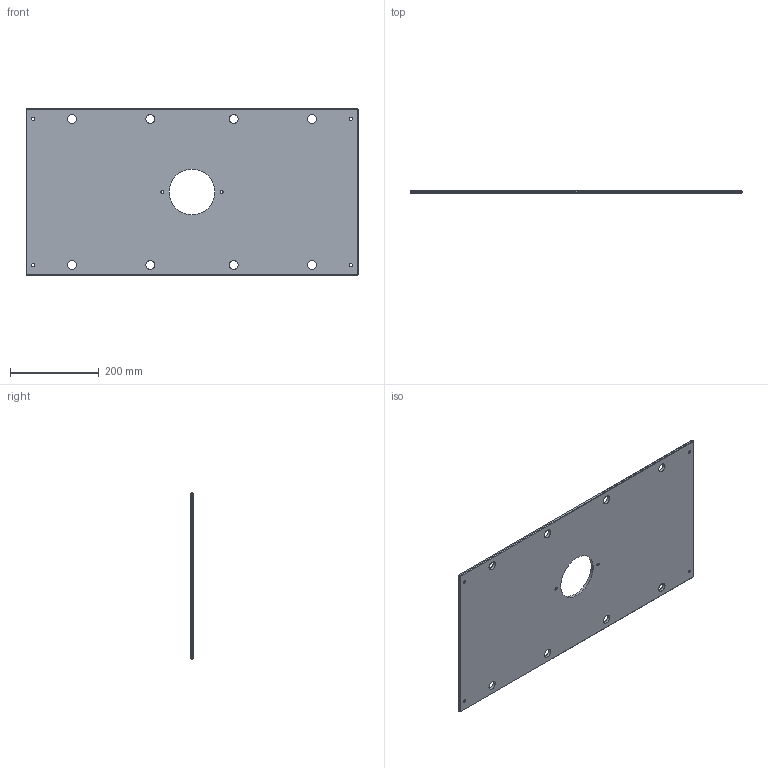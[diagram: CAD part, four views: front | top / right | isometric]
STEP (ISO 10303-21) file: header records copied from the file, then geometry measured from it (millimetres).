
FILE_DESCRIPTION (( 'STEP AP214' ), '1' );
FILE_NAME ('ME-0619-CH-1529.STEP', '2020-02-11T15:53:06', ( '' ), ( '' ), 'SwSTEP 2.0', 'SolidWorks 2018', '' );
FILE_SCHEMA (( 'AUTOMOTIVE_DESIGN' ));
Length unit declared in the file: inch
Products named in the file (1): ME-0619-CH-1529
Bounding box: 746.12 x 6.35 x 374.65 mm (x, y, z)
Volume: 1699893.4 mm3; surface area: 553735.8 mm2
Topology: 1 solids, 1 shells, 68 faces, 162 edges, 96 vertices
Faces by surface type: cylinder 30, plane 26, cone 12
Entity records: 2050 total; most frequent: DIRECTION 372, CARTESIAN_POINT 327, ORIENTED_EDGE 324, EDGE_CURVE 162, AXIS2_PLACEMENT_3D 141, EDGE_LOOP 98, VERTEX_POINT 96, LINE 90
